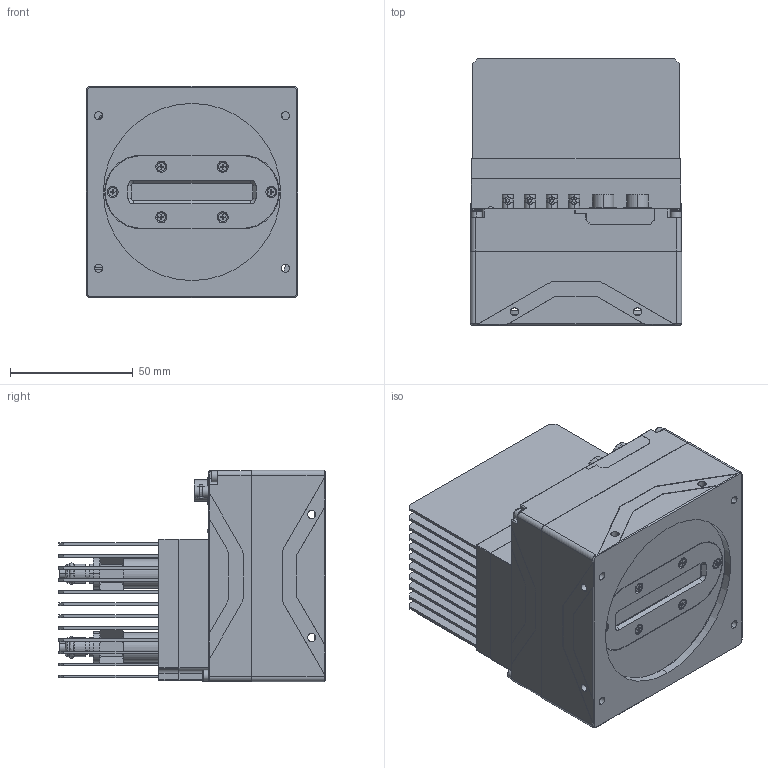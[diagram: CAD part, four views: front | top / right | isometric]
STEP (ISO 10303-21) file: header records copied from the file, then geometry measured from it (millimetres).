
FILE_DESCRIPTION (( 'STEP AP203' ), '1' );
FILE_NAME ('TPH9KCXP阨濮.STEP', '2024-07-31T11:36:52', ( 'Windows User' ), ( 'P R C' ), 'SwSTEP 2.0', 'SolidWorks 2017', '' );
FILE_SCHEMA (( 'CONFIG_CONTROL_DESIGN' ));
Length unit declared in the file: millimetre
Products named in the file (1): TPH9KCXP阨濮
Bounding box: 86 x 108.39 x 86 mm (x, y, z)
Surface area: 115875.6 mm2 (no closed solid volume)
Topology: 0 solids, 92 shells, 922 faces, 3696 edges, 2805 vertices
Faces by surface type: plane 468, cylinder 314, cone 96, bspline 25, sphere 11, torus 8
Entity records: 44177 total; most frequent: CARTESIAN_POINT 14645, DIRECTION 5787, ORIENTED_EDGE 5523, EDGE_CURVE 3665, VERTEX_POINT 2793, LINE 2189, VECTOR 2189, AXIS2_PLACEMENT_3D 1799
